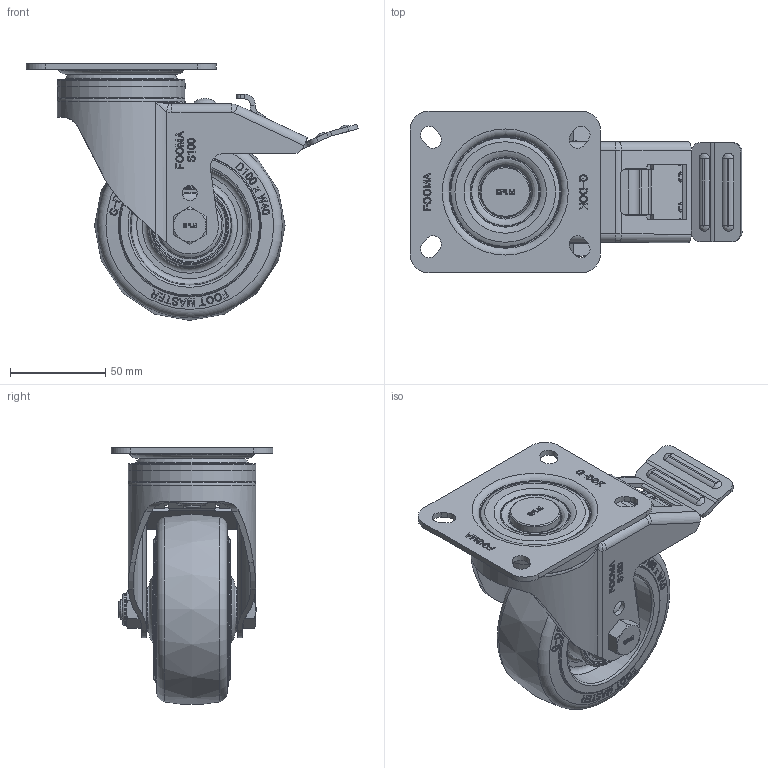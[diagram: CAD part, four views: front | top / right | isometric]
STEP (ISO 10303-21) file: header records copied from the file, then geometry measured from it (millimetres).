
FILE_DESCRIPTION(/* description */ (''),/* implementation_level */ '2;1');
FILE_NAME(/* name */ '\\192.168.10.38\지덕공유\1.기술연구소\2.연구개발 진행중\98.스테인레스캐스터 개발건_2023.10.26\제품설계\3D\홈페이지용\SPLM-100-BSF-HRD-PEU.stp',/* time_stamp */ '2025-02-20T11:30:22+09:00',/* author */ ('admin'),/* organization */ ('지덕산업'),/* preprocessor_version */ 'ST-DEVELOPER v18.1',/* originating_system */ 'Autodesk Inventor 2021',/* authorisation */ '');
FILE_SCHEMA (('CONFIG_CONTROL_DESIGN'));
Products named in the file (1): SPLM-100-BSF-HRD-PEU
Bounding box: 174.29 x 85 x 134.83 mm (x, y, z)
Volume: 387976 mm3; surface area: 95976.2 mm2
Topology: 1 solids, 1 shells, 1518 faces, 4029 edges, 2626 vertices
Faces by surface type: plane 674, bspline 498, cylinder 184, cone 109, torus 52, sphere 1
Full cylindrical faces by diameter (mm): 6 x1, 8 x2, 9 x1, 10 x2, 11 x1, 12 x1, 16 x2, 16.5 x1, 26.6 x1, 30 x1, 40.105 x1, 40.971 x1, 54 x1, 67 x1
Entity records: 51500 total; most frequent: CARTESIAN_POINT 18206, ORIENTED_EDGE 8050, DIRECTION 5151, EDGE_CURVE 4025, VERTEX_POINT 2626, LINE 1895, VECTOR 1895, EDGE_LOOP 1655
